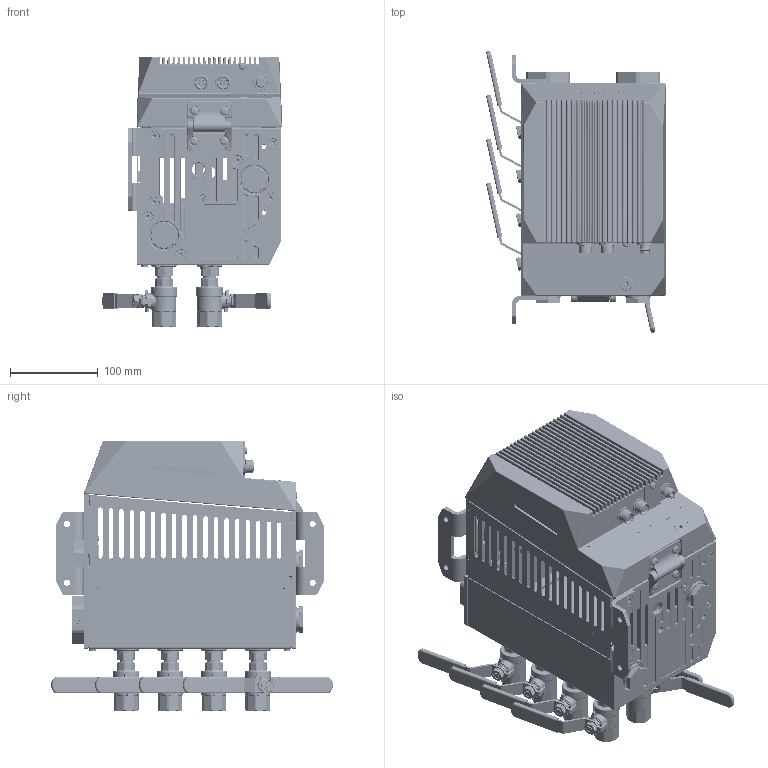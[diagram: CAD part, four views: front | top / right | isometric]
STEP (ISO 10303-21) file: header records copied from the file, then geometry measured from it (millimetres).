
FILE_DESCRIPTION (( 'STEP AP214' ), '1' );
FILE_NAME ('HB-FX1XXL61-4-ZH.STEP', '2026-03-02T09:13:57', ( '' ), ( '' ), 'SwSTEP 2.0', 'SolidWorks 2023', '' );
FILE_SCHEMA (( 'AUTOMOTIVE_DESIGN' ));
Length unit declared in the file: millimetre
Products named in the file (26): 29702_A15x1-A2; KX508-2_3^Kopie von 28706_Kopie von K8534-Hülle Teil2_K8534-Hülle kompl; Kopie von Kopie von 24568^Kopie von K8534-Hülle Teil3_K8534-Hülle kompl_00; Kopie von 29733-X^Kopie von K8534-Hülle Teil2_K8534-Hülle kompl; Kopie (2) von B3061620^Kopie von K8534-Hülle Teil2_K8534-Hülle kompl_M4x12; 29857_00 - geschlossen; Kopie von K8534-Hülle Teil2^K8534-Hülle kompl_4-Fach HB-Therm; Kopie von 29734-X^Kopie von K8534-Hülle Teil3_K8534-Hülle kompl_00; Kopie von K8534-Hülle Teil3^K8534-Hülle kompl_4-FACH-LINKS HB-Therm; 29669_00; KX508-2_2^Kopie von 28706_Kopie von K8534-Hülle Teil2_K8534-Hülle kompl; Kopie von 29825-X^Kopie von K8534-Hülle Teil3_K8534-Hülle kompl_00; HB-FX1XXL61-4-ZH; Kopie von B3061620^Kopie von K8534-Hülle Teil2_K8534-Hülle kompl_M4x12; 29788_Geschlossen; Kopie von 29730^Kopie von K8534-Hülle Teil3_K8534-Hülle kompl_00; Kopie von 28706^Kopie von K8534-Hülle Teil2_K8534-Hülle kompl_180°; Kopie von K8534-Hülle LINKS^Kopie von K8534-Hülle Teil3_K8534-Hülle kompl_4-FACH; Kopie von 29814-X^Kopie von K8534-Hülle Teil3_K8534-Hülle kompl_01-mit Beschriftung; KX508-2_1^Kopie von 28706_Kopie von K8534-Hülle Teil2_K8534-Hülle kompl; Kopie von 29827^Kopie von K8534-Hülle Teil2_K8534-Hülle kompl; Kopie von 29820-X^Kopie von K8534-Hülle Teil3_K8534-Hülle kompl_01-mit Beschriftung; Kopie von Kopie von 29730^Kopie von K8534-Hülle Teil2_K8534-Hülle kompl_00; Kopie von 28862^Kopie von K8534-Hülle Teil2_K8534-Hülle kompl_M5x12; Kopie von 29796-X^Kopie von K8534-Hülle Teil2_K8534-Hülle kompl_29796-1; Kopie von 29714^Kopie von K8534-Hülle Teil2_K8534-Hülle kompl
Assembly tree (43 placements, depth 4):
  HB-FX1XXL61-4-ZH
    Kopie von K8534-Hülle Teil3^K8534-Hülle kompl_4-FACH-LINKS HB-Therm
      Kopie von 29734-X^Kopie von K8534-Hülle Teil3_K8534-Hülle kompl_00  x2
      Kopie von 29730^Kopie von K8534-Hülle Teil3_K8534-Hülle kompl_00  x4
      Kopie von K8534-Hülle LINKS^Kopie von K8534-Hülle Teil3_K8534-Hülle kompl_4-FACH
      Kopie von 29814-X^Kopie von K8534-Hülle Teil3_K8534-Hülle kompl_01-mit Beschriftung
      Kopie von 29820-X^Kopie von K8534-Hülle Teil3_K8534-Hülle kompl_01-mit Beschriftung
      Kopie von 29825-X^Kopie von K8534-Hülle Teil3_K8534-Hülle kompl_00
      Kopie von Kopie von 24568^Kopie von K8534-Hülle Teil3_K8534-Hülle kompl_00  x2
    Kopie von K8534-Hülle Teil2^K8534-Hülle kompl_4-Fach HB-Therm
      Kopie von 29827^Kopie von K8534-Hülle Teil2_K8534-Hülle kompl  x2
      Kopie von 29714^Kopie von K8534-Hülle Teil2_K8534-Hülle kompl
      Kopie von 28862^Kopie von K8534-Hülle Teil2_K8534-Hülle kompl_M5x12  x4
      Kopie von 28706^Kopie von K8534-Hülle Teil2_K8534-Hülle kompl_180°
        KX508-2_1^Kopie von 28706_Kopie von K8534-Hülle Teil2_K8534-Hülle kompl
        KX508-2_2^Kopie von 28706_Kopie von K8534-Hülle Teil2_K8534-Hülle kompl
        KX508-2_3^Kopie von 28706_Kopie von K8534-Hülle Teil2_K8534-Hülle kompl
      Kopie von B3061620^Kopie von K8534-Hülle Teil2_K8534-Hülle kompl_M4x12  x2
      Kopie von 29796-X^Kopie von K8534-Hülle Teil2_K8534-Hülle kompl_29796-1
      Kopie von Kopie von 29730^Kopie von K8534-Hülle Teil2_K8534-Hülle kompl_00  x2
      Kopie von 29733-X^Kopie von K8534-Hülle Teil2_K8534-Hülle kompl
      Kopie (2) von B3061620^Kopie von K8534-Hülle Teil2_K8534-Hülle kompl_M4x12
    29857_00 - geschlossen  x8
      29788_Geschlossen
      29669_00
      29702_A15x1-A2
Bounding box: 204.47 x 321.24 x 307.8 mm (x, y, z)
Volume: 1409784.5 mm3; surface area: 899314.3 mm2
Topology: 208 solids, 209 shells, 9969 faces, 24089 edges, 14689 vertices
Faces by surface type: plane 3446, cylinder 2906, torus 1122, bspline 1100, cone 1090, sphere 305
Full cylindrical faces by diameter (mm): 2.5 x9, 3.3 x22, 3.6 x1, 4 x14, 4.2 x5, 4.5 x6, 4.6 x1, 4.9 x6, 5 x36, 5.2 x4, 6 x14, 6.6 x12, 6.8 x2, 7 x18, 7.8 x2, 8 x48, 8.013 x8, 8.3 x1, 8.4 x4, 9.4 x1, 10 x17, 10.2 x1, 10.3 x1, 10.5 x32, 10.55 x1, 10.8 x2, 11.04 x8, 12 x26, 12.1 x10, 12.3 x8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
Entity records: 330144 total; most frequent: CARTESIAN_POINT 93173, ORIENTED_EDGE 33784, DIRECTION 32401, EDGE_CURVE 16892, AXIS2_PLACEMENT_3D 12418, VERTEX_POINT 10646, EDGE_LOOP 8526, FACE_OUTER_BOUND 7647
